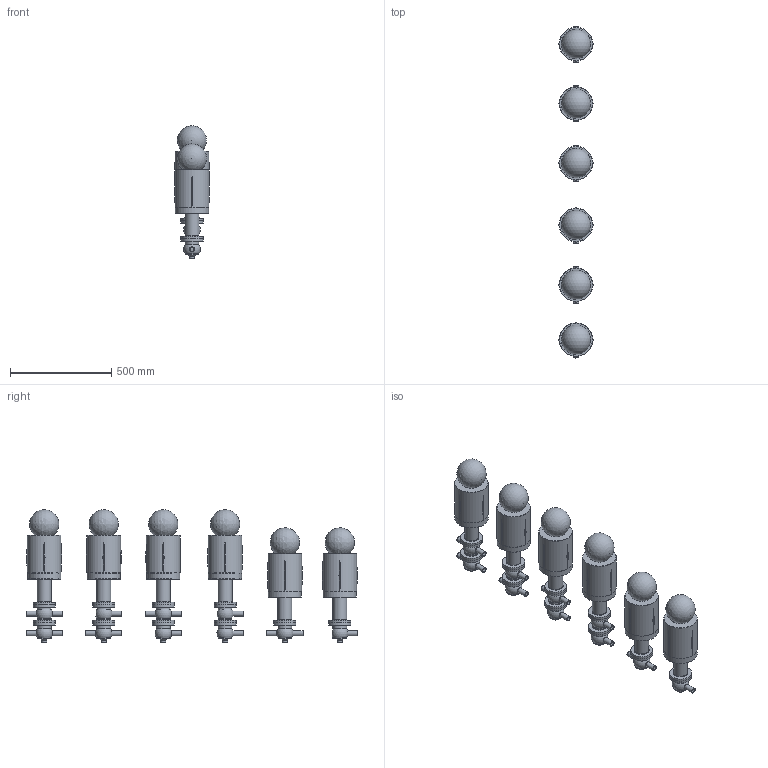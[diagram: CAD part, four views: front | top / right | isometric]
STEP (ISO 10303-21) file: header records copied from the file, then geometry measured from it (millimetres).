
FILE_DESCRIPTION(/* description */ (''),/* implementation_level */ '2;1');
FILE_NAME(/* name */ 'C:\Users\marz-m\Desktop\PDF\BBZQ 3D STEP\BBZQ-DN254-CIL.156.stp',/* time_stamp */ '2018-04-13T14:25:46+02:00',/* author */ ('marz-m'),/* organization */ (''),/* preprocessor_version */ 'ST-DEVELOPER v17',/* originating_system */ 'Autodesk Inventor 2018',/* authorisation */ '');
FILE_SCHEMA (('AUTOMOTIVE_DESIGN { 1 0 10303 214 3 1 1 }'));
Length unit declared in the file: millimetre
Products named in the file (8): BBZQ-CIL.156-DN254; COR-INF-L-BBZQ-DN025(28X3)-SALD; COR-INF-T-BBZQ-DN025(28X2.5)-SALD; assemblaggio dn40 per cil 108-156; CIL156; SAGOMA-GIOTTO-; CORPO-SUP-BBZQ-L-DN254-SALD; CORPO-SUP-BBZQ-T-DN254-SALD
Assembly tree (28 placements, depth 2):
  BBZQ-CIL.156-DN254
    COR-INF-L-BBZQ-DN025(28X3)-SALD  x3
    COR-INF-T-BBZQ-DN025(28X2.5)-SALD  x3
    assemblaggio dn40 per cil 108-156  x6
    CIL156  x6
    SAGOMA-GIOTTO-  x6
    CORPO-SUP-BBZQ-L-DN254-SALD  x2
    CORPO-SUP-BBZQ-T-DN254-SALD  x2
Bounding box: 172.04 x 1643.08 x 655.97 mm (x, y, z)
Volume: 45255074.2 mm3; surface area: 2203276.3 mm2
Topology: 28 solids, 28 shells, 386 faces, 900 edges, 656 vertices
Faces by surface type: cylinder 112, plane 109, cone 72, torus 38, sphere 31, bspline 24
Full cylindrical faces by diameter (mm): 20 x12, 20.4 x21, 25.4 x21, 68 x20, 69 x6, 109 x20, 164.5 x6, 166 x6
Entity records: 3859 total; most frequent: CARTESIAN_POINT 861, DIRECTION 664, ORIENTED_EDGE 480, AXIS2_PLACEMENT_3D 311, EDGE_CURVE 240, VERTEX_POINT 176, CIRCLE 172, EDGE_LOOP 136
